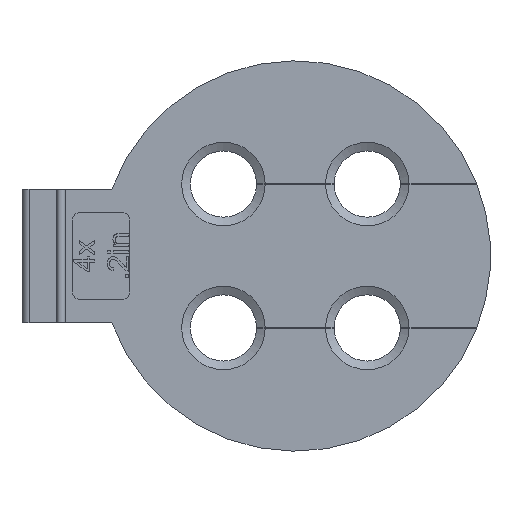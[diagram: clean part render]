
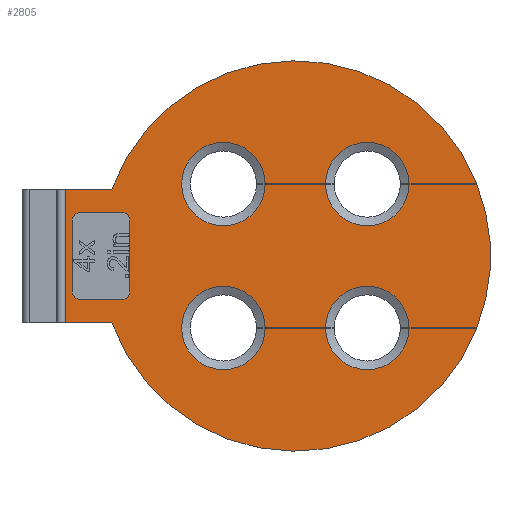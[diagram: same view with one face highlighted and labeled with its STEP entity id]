
A CAD part, left-side view. The second image highlights one B-rep face of the part: STEP entity #2805.
In plain terms, the highlighted planar face has unit normal (-1, 0, 0).
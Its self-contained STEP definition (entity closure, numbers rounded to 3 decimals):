
#65=FACE_BOUND('',#369,.T.);
#96=CIRCLE('',#2956,13.57);
#106=CIRCLE('',#2971,2.9);
#114=CIRCLE('',#2983,2.9);
#121=CIRCLE('',#3000,2.9);
#127=CIRCLE('',#3011,2.9);
#129=CIRCLE('',#3015,2.9);
#130=CIRCLE('',#3016,13.57);
#131=CIRCLE('',#3017,2.9);
#132=CIRCLE('',#3018,13.57);
#133=CIRCLE('',#3019,0.5);
#134=CIRCLE('',#3020,0.5);
#135=CIRCLE('',#3021,0.5);
#136=CIRCLE('',#3022,0.5);
#217=FACE_OUTER_BOUND('',#368,.T.);
#368=EDGE_LOOP('',(#2046,#2047,#2048,#2049,#2050,#2051,#2052,#2053,#2054,
#2055,#2056,#2057,#2058,#2059,#2060,#2061,#2062,#2063,#2064,#2065));
#369=EDGE_LOOP('',(#2066,#2067,#2068,#2069,#2070,#2071,#2072,#2073));
#503=LINE('',#3875,#820);
#519=LINE('',#3915,#836);
#530=LINE('',#3939,#847);
#534=LINE('',#3948,#851);
#561=LINE('',#4069,#878);
#571=LINE('',#4090,#888);
#574=LINE('',#4097,#891);
#582=LINE('',#4113,#899);
#591=LINE('',#4149,#908);
#592=LINE('',#4151,#909);
#593=LINE('',#4153,#910);
#594=LINE('',#4159,#911);
#595=LINE('',#4163,#912);
#596=LINE('',#4167,#913);
#597=LINE('',#4171,#914);
#820=VECTOR('',#3151,10.);
#836=VECTOR('',#3169,10.);
#847=VECTOR('',#3182,10.);
#851=VECTOR('',#3188,10.);
#878=VECTOR('',#3305,10.);
#888=VECTOR('',#3317,10.);
#891=VECTOR('',#3322,10.);
#899=VECTOR('',#3332,10.);
#908=VECTOR('',#3381,10.);
#909=VECTOR('',#3382,10.);
#910=VECTOR('',#3383,10.);
#911=VECTOR('',#3390,10.);
#912=VECTOR('',#3393,10.);
#913=VECTOR('',#3396,10.);
#914=VECTOR('',#3399,10.);
#1136=VERTEX_POINT('',#3871);
#1138=VERTEX_POINT('',#3874);
#1147=VERTEX_POINT('',#3895);
#1155=VERTEX_POINT('',#3913);
#1166=VERTEX_POINT('',#3936);
#1167=VERTEX_POINT('',#3938);
#1170=VERTEX_POINT('',#3945);
#1171=VERTEX_POINT('',#3947);
#1185=VERTEX_POINT('',#3981);
#1203=VERTEX_POINT('',#4054);
#1208=VERTEX_POINT('',#4067);
#1217=VERTEX_POINT('',#4087);
#1218=VERTEX_POINT('',#4089);
#1219=VERTEX_POINT('',#4093);
#1221=VERTEX_POINT('',#4096);
#1227=VERTEX_POINT('',#4110);
#1228=VERTEX_POINT('',#4112);
#1235=VERTEX_POINT('',#4148);
#1236=VERTEX_POINT('',#4150);
#1237=VERTEX_POINT('',#4152);
#1238=VERTEX_POINT('',#4157);
#1239=VERTEX_POINT('',#4158);
#1240=VERTEX_POINT('',#4160);
#1241=VERTEX_POINT('',#4162);
#1242=VERTEX_POINT('',#4164);
#1243=VERTEX_POINT('',#4166);
#1244=VERTEX_POINT('',#4168);
#1245=VERTEX_POINT('',#4170);
#1419=EDGE_CURVE('',#1138,#1136,#503,.T.);
#1437=EDGE_CURVE('',#1147,#1155,#519,.T.);
#1448=EDGE_CURVE('',#1167,#1166,#530,.T.);
#1452=EDGE_CURVE('',#1171,#1170,#534,.T.);
#1470=EDGE_CURVE('',#1185,#1155,#96,.T.);
#1487=EDGE_CURVE('',#1170,#1167,#106,.T.);
#1499=EDGE_CURVE('',#1166,#1147,#114,.T.);
#1511=EDGE_CURVE('',#1203,#1208,#561,.T.);
#1521=EDGE_CURVE('',#1218,#1217,#571,.T.);
#1524=EDGE_CURVE('',#1221,#1219,#574,.T.);
#1532=EDGE_CURVE('',#1228,#1227,#582,.T.);
#1543=EDGE_CURVE('',#1227,#1218,#121,.T.);
#1549=EDGE_CURVE('',#1219,#1228,#127,.T.);
#1551=EDGE_CURVE('',#1136,#1171,#129,.T.);
#1552=EDGE_CURVE('',#1185,#1235,#591,.T.);
#1553=EDGE_CURVE('',#1235,#1236,#592,.T.);
#1554=EDGE_CURVE('',#1236,#1237,#593,.T.);
#1555=EDGE_CURVE('',#1221,#1237,#130,.T.);
#1556=EDGE_CURVE('',#1217,#1203,#131,.T.);
#1557=EDGE_CURVE('',#1138,#1208,#132,.T.);
#1558=EDGE_CURVE('',#1238,#1239,#594,.T.);
#1559=EDGE_CURVE('',#1240,#1239,#133,.T.);
#1560=EDGE_CURVE('',#1240,#1241,#595,.T.);
#1561=EDGE_CURVE('',#1242,#1241,#134,.T.);
#1562=EDGE_CURVE('',#1242,#1243,#596,.T.);
#1563=EDGE_CURVE('',#1244,#1243,#135,.T.);
#1564=EDGE_CURVE('',#1244,#1245,#597,.T.);
#1565=EDGE_CURVE('',#1238,#1245,#136,.T.);
#2046=ORIENTED_EDGE('',*,*,#1419,.T.);
#2047=ORIENTED_EDGE('',*,*,#1551,.T.);
#2048=ORIENTED_EDGE('',*,*,#1452,.T.);
#2049=ORIENTED_EDGE('',*,*,#1487,.T.);
#2050=ORIENTED_EDGE('',*,*,#1448,.T.);
#2051=ORIENTED_EDGE('',*,*,#1499,.T.);
#2052=ORIENTED_EDGE('',*,*,#1437,.T.);
#2053=ORIENTED_EDGE('',*,*,#1470,.F.);
#2054=ORIENTED_EDGE('',*,*,#1552,.T.);
#2055=ORIENTED_EDGE('',*,*,#1553,.T.);
#2056=ORIENTED_EDGE('',*,*,#1554,.T.);
#2057=ORIENTED_EDGE('',*,*,#1555,.F.);
#2058=ORIENTED_EDGE('',*,*,#1524,.T.);
#2059=ORIENTED_EDGE('',*,*,#1549,.T.);
#2060=ORIENTED_EDGE('',*,*,#1532,.T.);
#2061=ORIENTED_EDGE('',*,*,#1543,.T.);
#2062=ORIENTED_EDGE('',*,*,#1521,.T.);
#2063=ORIENTED_EDGE('',*,*,#1556,.T.);
#2064=ORIENTED_EDGE('',*,*,#1511,.T.);
#2065=ORIENTED_EDGE('',*,*,#1557,.F.);
#2066=ORIENTED_EDGE('',*,*,#1558,.T.);
#2067=ORIENTED_EDGE('',*,*,#1559,.F.);
#2068=ORIENTED_EDGE('',*,*,#1560,.T.);
#2069=ORIENTED_EDGE('',*,*,#1561,.F.);
#2070=ORIENTED_EDGE('',*,*,#1562,.T.);
#2071=ORIENTED_EDGE('',*,*,#1563,.F.);
#2072=ORIENTED_EDGE('',*,*,#1564,.T.);
#2073=ORIENTED_EDGE('',*,*,#1565,.F.);
#2693=PLANE('',#3014);
#2805=ADVANCED_FACE('',(#217,#65),#2693,.F.);
#2956=AXIS2_PLACEMENT_3D('',#3983,#3217,#3218);
#2971=AXIS2_PLACEMENT_3D('',#4021,#3251,#3252);
#2983=AXIS2_PLACEMENT_3D('',#4043,#3279,#3280);
#3000=AXIS2_PLACEMENT_3D('',#4132,#3349,#3350);
#3011=AXIS2_PLACEMENT_3D('',#4143,#3371,#3372);
#3014=AXIS2_PLACEMENT_3D('',#4146,#3377,#3378);
#3015=AXIS2_PLACEMENT_3D('',#4147,#3379,#3380);
#3016=AXIS2_PLACEMENT_3D('',#4154,#3384,#3385);
#3017=AXIS2_PLACEMENT_3D('',#4155,#3386,#3387);
#3018=AXIS2_PLACEMENT_3D('',#4156,#3388,#3389);
#3019=AXIS2_PLACEMENT_3D('',#4161,#3391,#3392);
#3020=AXIS2_PLACEMENT_3D('',#4165,#3394,#3395);
#3021=AXIS2_PLACEMENT_3D('',#4169,#3397,#3398);
#3022=AXIS2_PLACEMENT_3D('',#4172,#3400,#3401);
#3151=DIRECTION('',(0.,1.,0.));
#3169=DIRECTION('',(0.,-1.,0.));
#3182=DIRECTION('',(0.,-1.,0.));
#3188=DIRECTION('',(0.,1.,0.));
#3217=DIRECTION('center_axis',(1.,0.,0.));
#3218=DIRECTION('ref_axis',(0.,0.,-1.));
#3251=DIRECTION('center_axis',(1.,0.,0.));
#3252=DIRECTION('ref_axis',(0.,0.,-1.));
#3279=DIRECTION('center_axis',(1.,0.,0.));
#3280=DIRECTION('ref_axis',(0.,1.,0.));
#3305=DIRECTION('',(0.,-1.,0.));
#3317=DIRECTION('',(0.,-1.,0.));
#3322=DIRECTION('',(0.,1.,0.));
#3332=DIRECTION('',(0.,1.,0.));
#3349=DIRECTION('center_axis',(1.,0.,0.));
#3350=DIRECTION('ref_axis',(0.,-1.,0.));
#3371=DIRECTION('center_axis',(1.,0.,0.));
#3372=DIRECTION('ref_axis',(0.,0.,1.));
#3377=DIRECTION('center_axis',(1.,0.,0.));
#3378=DIRECTION('ref_axis',(0.,0.,-1.));
#3379=DIRECTION('center_axis',(1.,0.,0.));
#3380=DIRECTION('ref_axis',(0.,1.,0.));
#3381=DIRECTION('',(0.,1.,0.));
#3382=DIRECTION('',(0.,0.,-1.));
#3383=DIRECTION('',(0.,-1.,0.));
#3384=DIRECTION('center_axis',(1.,0.,0.));
#3385=DIRECTION('ref_axis',(0.,0.,-1.));
#3386=DIRECTION('center_axis',(1.,0.,0.));
#3387=DIRECTION('ref_axis',(0.,0.,1.));
#3388=DIRECTION('center_axis',(1.,0.,0.));
#3389=DIRECTION('ref_axis',(0.,0.,-1.));
#3390=DIRECTION('',(0.,1.,0.));
#3391=DIRECTION('center_axis',(-1.,0.,0.));
#3392=DIRECTION('ref_axis',(0.,0.707,-0.707));
#3393=DIRECTION('',(0.,0.,1.));
#3394=DIRECTION('center_axis',(-1.,0.,0.));
#3395=DIRECTION('ref_axis',(0.,0.707,0.707));
#3396=DIRECTION('',(0.,-1.,0.));
#3397=DIRECTION('center_axis',(-1.,0.,0.));
#3398=DIRECTION('ref_axis',(0.,-0.707,0.707));
#3399=DIRECTION('',(0.,0.,-1.));
#3400=DIRECTION('center_axis',(-1.,0.,0.));
#3401=DIRECTION('ref_axis',(0.,-0.707,-0.707));
#3871=CARTESIAN_POINT('',(-0.8,-7.9,4.995));
#3874=CARTESIAN_POINT('',(-0.8,-12.617,4.995));
#3875=CARTESIAN_POINT('',(-0.8,-6.309,4.995));
#3895=CARTESIAN_POINT('',(-0.8,-7.9,5.005));
#3913=CARTESIAN_POINT('',(-0.8,-12.613,5.005));
#3915=CARTESIAN_POINT('',(-0.8,1.35,5.005));
#3936=CARTESIAN_POINT('',(-0.8,-2.1,5.005));
#3938=CARTESIAN_POINT('',(-0.8,2.1,5.005));
#3939=CARTESIAN_POINT('',(-0.8,1.35,5.005));
#3945=CARTESIAN_POINT('',(-0.8,2.1,4.995));
#3947=CARTESIAN_POINT('',(-0.8,-2.1,4.995));
#3948=CARTESIAN_POINT('',(-0.8,-6.309,4.995));
#3981=CARTESIAN_POINT('',(-0.8,12.748,4.65));
#3983=CARTESIAN_POINT('Origin',(-0.8,0.,0.));
#4021=CARTESIAN_POINT('Origin',(-0.8,5.,5.));
#4043=CARTESIAN_POINT('Origin',(-0.8,-5.,5.));
#4054=CARTESIAN_POINT('',(-0.8,-7.9,-4.995));
#4067=CARTESIAN_POINT('',(-0.8,-12.617,-4.995));
#4069=CARTESIAN_POINT('',(-0.8,-6.309,-4.995));
#4087=CARTESIAN_POINT('',(-0.8,-2.1,-4.995));
#4089=CARTESIAN_POINT('',(-0.8,2.1,-4.995));
#4090=CARTESIAN_POINT('',(-0.8,-6.309,-4.995));
#4093=CARTESIAN_POINT('',(-0.8,-7.9,-5.005));
#4096=CARTESIAN_POINT('',(-0.8,-12.613,-5.005));
#4097=CARTESIAN_POINT('',(-0.8,1.35,-5.005));
#4110=CARTESIAN_POINT('',(-0.8,2.1,-5.005));
#4112=CARTESIAN_POINT('',(-0.8,-2.1,-5.005));
#4113=CARTESIAN_POINT('',(-0.8,1.35,-5.005));
#4132=CARTESIAN_POINT('Origin',(-0.8,5.,-5.));
#4143=CARTESIAN_POINT('Origin',(-0.8,-5.,-5.));
#4146=CARTESIAN_POINT('Origin',(-0.8,0.,0.));
#4147=CARTESIAN_POINT('Origin',(-0.8,-5.,5.));
#4148=CARTESIAN_POINT('',(-0.8,16.,4.65));
#4149=CARTESIAN_POINT('',(-0.8,15.618,4.65));
#4150=CARTESIAN_POINT('',(-0.8,16.,-4.65));
#4151=CARTESIAN_POINT('',(-0.8,16.,2.325));
#4152=CARTESIAN_POINT('',(-0.8,12.748,-4.65));
#4153=CARTESIAN_POINT('',(-0.8,13.655,-4.65));
#4154=CARTESIAN_POINT('Origin',(-0.8,0.,0.));
#4155=CARTESIAN_POINT('Origin',(-0.8,-5.,-5.));
#4156=CARTESIAN_POINT('Origin',(-0.8,0.,0.));
#4157=CARTESIAN_POINT('',(-0.8,12.,-3.));
#4158=CARTESIAN_POINT('',(-0.8,15.,-3.));
#4159=CARTESIAN_POINT('',(-0.8,7.75,-3.));
#4160=CARTESIAN_POINT('',(-0.8,15.5,-2.5));
#4161=CARTESIAN_POINT('Origin',(-0.8,15.,-2.5));
#4162=CARTESIAN_POINT('',(-0.8,15.5,2.5));
#4163=CARTESIAN_POINT('',(-0.8,15.5,1.5));
#4164=CARTESIAN_POINT('',(-0.8,15.,3.));
#4165=CARTESIAN_POINT('Origin',(-0.8,15.,2.5));
#4166=CARTESIAN_POINT('',(-0.8,12.,3.));
#4167=CARTESIAN_POINT('',(-0.8,5.75,3.));
#4168=CARTESIAN_POINT('',(-0.8,11.5,2.5));
#4169=CARTESIAN_POINT('Origin',(-0.8,12.,2.5));
#4170=CARTESIAN_POINT('',(-0.8,11.5,-2.5));
#4171=CARTESIAN_POINT('',(-0.8,11.5,-1.5));
#4172=CARTESIAN_POINT('Origin',(-0.8,12.,-2.5));
